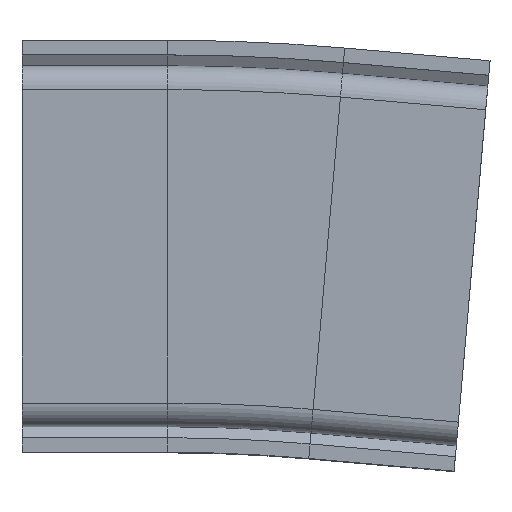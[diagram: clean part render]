
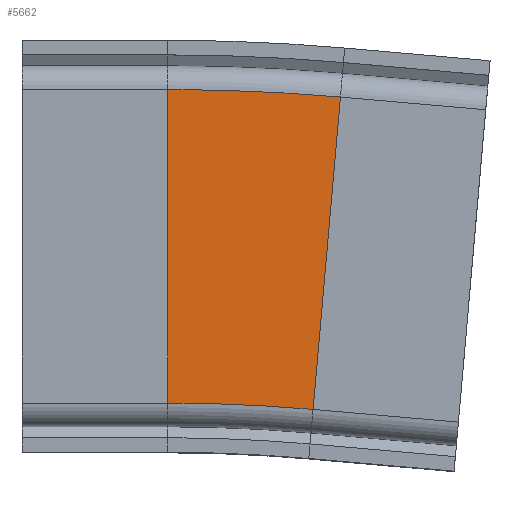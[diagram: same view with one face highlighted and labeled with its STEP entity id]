
A CAD part, top view. The second image highlights one B-rep face of the part: STEP entity #5662.
In plain terms, the highlighted planar face has unit normal (0, 0, 1).
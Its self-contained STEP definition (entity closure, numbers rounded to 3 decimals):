
#36 = ORIENTED_EDGE ( 'NONE', *, *, #4942, .T. ) ;
#51 = ORIENTED_EDGE ( 'NONE', *, *, #1622, .T. ) ;
#281 = CARTESIAN_POINT ( 'NONE',  ( 79.83, -44.739, 42.5 ) ) ;
#362 = DIRECTION ( 'NONE',  ( 0.087, 0.996, 0. ) ) ;
#366 = CARTESIAN_POINT ( 'NONE',  ( 40., -500., 42.5 ) ) ;
#506 = DIRECTION ( 'NONE',  ( 0., 0., 1. ) ) ;
#1129 = VECTOR ( 'NONE', #362, 1000. ) ;
#1239 = VERTEX_POINT ( 'NONE', #3860 ) ;
#1240 = VECTOR ( 'NONE', #5346, 1000. ) ;
#1384 = EDGE_CURVE ( 'NONE', #2233, #4592, #2181, .T. ) ;
#1475 = CIRCLE ( 'NONE', #3992, 543. ) ;
#1616 = DIRECTION ( 'NONE',  ( 1., 0., 0. ) ) ;
#1622 = EDGE_CURVE ( 'NONE', #2633, #1239, #1475, .T. ) ;
#1830 = CARTESIAN_POINT ( 'NONE',  ( 40., -500., 42.5 ) ) ;
#2018 = ORIENTED_EDGE ( 'NONE', *, *, #1384, .F. ) ;
#2181 = CIRCLE ( 'NONE', #3290, 457. ) ;
#2202 = FACE_OUTER_BOUND ( 'NONE', #3399, .T. ) ;
#2233 = VERTEX_POINT ( 'NONE', #281 ) ;
#2302 = LINE ( 'NONE', #5653, #1129 ) ;
#2332 = DIRECTION ( 'NONE',  ( 0., 0., -1. ) ) ;
#2561 = LINE ( 'NONE', #4920, #1240 ) ;
#2633 = VERTEX_POINT ( 'NONE', #3300 ) ;
#3227 = PLANE ( 'NONE',  #3374 ) ;
#3281 = DIRECTION ( 'NONE',  ( -1., 0., 0. ) ) ;
#3290 = AXIS2_PLACEMENT_3D ( 'NONE', #1830, #506, #4426 ) ;
#3300 = CARTESIAN_POINT ( 'NONE',  ( 87.326, 40.934, 42.5 ) ) ;
#3374 = AXIS2_PLACEMENT_3D ( 'NONE', #4998, #2332, #3281 ) ;
#3399 = EDGE_LOOP ( 'NONE', ( #5531, #2018, #36, #51 ) ) ;
#3860 = CARTESIAN_POINT ( 'NONE',  ( 40., 43., 42.5 ) ) ;
#3992 = AXIS2_PLACEMENT_3D ( 'NONE', #366, #5578, #1616 ) ;
#4118 = CARTESIAN_POINT ( 'NONE',  ( 40., -43., 42.5 ) ) ;
#4426 = DIRECTION ( 'NONE',  ( 1., 0., 0. ) ) ;
#4519 = EDGE_CURVE ( 'NONE', #1239, #4592, #2561, .T. ) ;
#4592 = VERTEX_POINT ( 'NONE', #4118 ) ;
#4920 = CARTESIAN_POINT ( 'NONE',  ( 40., 0., 42.5 ) ) ;
#4942 = EDGE_CURVE ( 'NONE', #2233, #2633, #2302, .T. ) ;
#4998 = CARTESIAN_POINT ( 'NONE',  ( 79.83, -44.739, 42.5 ) ) ;
#5346 = DIRECTION ( 'NONE',  ( 0., -1., 0. ) ) ;
#5531 = ORIENTED_EDGE ( 'NONE', *, *, #4519, .T. ) ;
#5578 = DIRECTION ( 'NONE',  ( 0., 0., 1. ) ) ;
#5653 = CARTESIAN_POINT ( 'NONE',  ( 79.83, -44.739, 42.5 ) ) ;
#5662 = ADVANCED_FACE ( 'NONE', ( #2202 ), #3227, .F. ) ;
